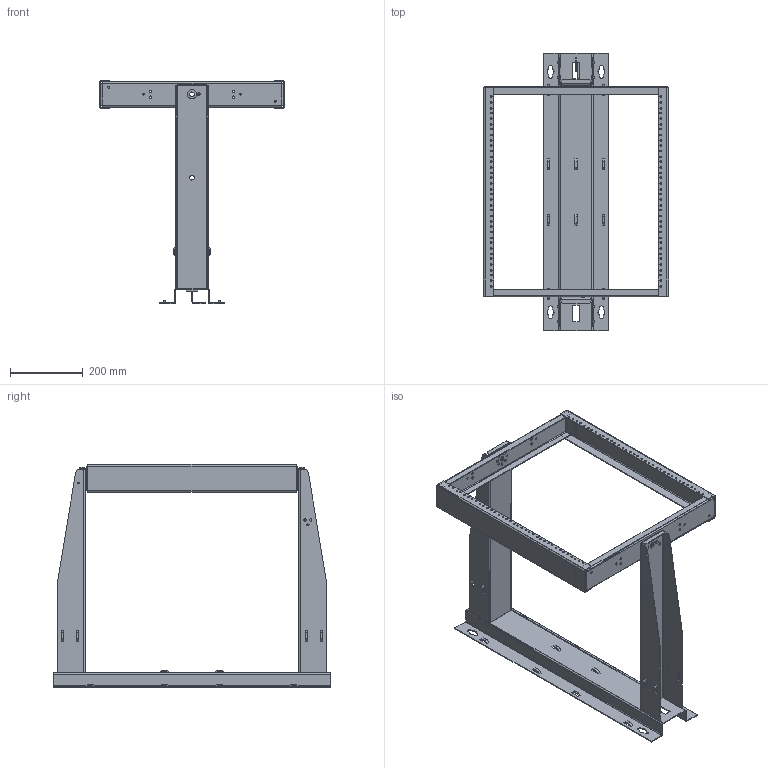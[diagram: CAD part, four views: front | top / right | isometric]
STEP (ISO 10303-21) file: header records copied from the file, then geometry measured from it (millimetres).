
FILE_DESCRIPTION (( 'STEP AP203' ), '1' );
FILE_NAME ('e19swmc12u24.STEP', '2012-10-15T15:44:02', ( 'User' ), ( 'Pentair Inc' ), 'SwSTEP 2.0', 'SolidWorks 2010', '' );
FILE_SCHEMA (( 'CONFIG_CONTROL_DESIGN' ));
Length unit declared in the file: inch
Products named in the file (9): 89088098; 89088099; 89088097; e19swmc12u24; 89088103; 89088133; 89090327; 89090326; 89090325
Assembly tree (12 placements, depth 3):
  e19swmc12u24
    89090325
      89090327  x2
      89090326  x2
    89088133
    89088097
      89088099
      89088103  x2
      89088098  x2
Bounding box: 507.49 x 762 x 612.06 mm (x, y, z)
Volume: 1665434 mm3; surface area: 1391247.7 mm2
Topology: 10 solids, 10 shells, 883 faces, 2351 edges, 1478 vertices
Faces by surface type: plane 561, cylinder 314, cone 8
Entity records: 18543 total; most frequent: CARTESIAN_POINT 2990, DIRECTION 2980, ORIENTED_EDGE 2976, EDGE_CURVE 1488, LINE 1132, VECTOR 1132, VERTEX_POINT 934, AXIS2_PLACEMENT_3D 924
